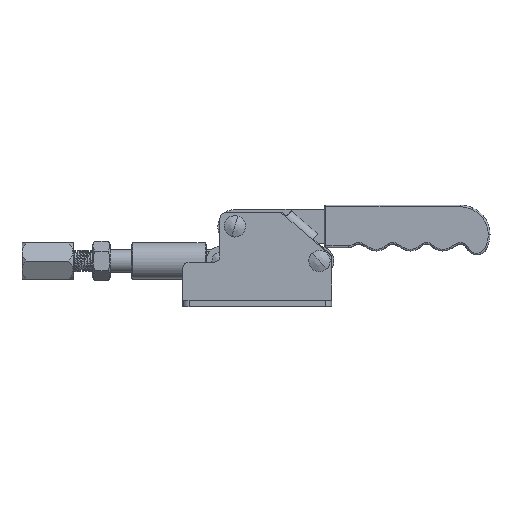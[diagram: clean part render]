
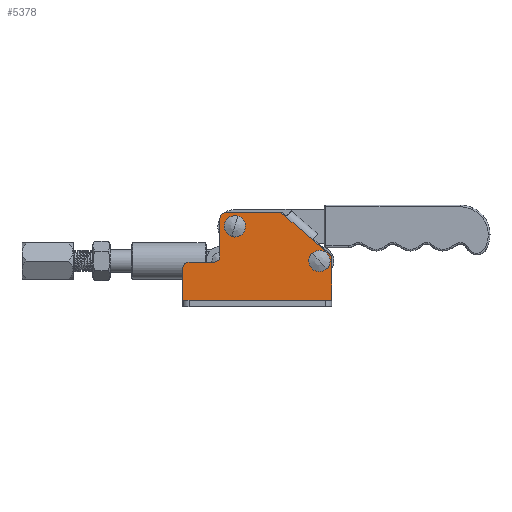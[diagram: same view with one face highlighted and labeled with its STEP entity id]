
A CAD part, top view. The second image highlights one B-rep face of the part: STEP entity #5378.
In plain terms, the highlighted planar face has unit normal (0, 0, 1).
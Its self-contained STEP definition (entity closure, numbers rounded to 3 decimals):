
#438 = VERTEX_POINT ( 'NONE', #16229 ) ;
#706 = LINE ( 'NONE', #6889, #12994 ) ;
#869 = EDGE_CURVE ( 'NONE', #438, #1875, #4593, .T. ) ;
#1013 = CARTESIAN_POINT ( 'NONE',  ( -1326.184, -511.963, 0. ) ) ;
#1091 = AXIS2_PLACEMENT_3D ( 'NONE', #14428, #15943, #9283 ) ;
#1398 = CARTESIAN_POINT ( 'NONE',  ( -1315.984, -498.063, 0. ) ) ;
#1481 = AXIS2_PLACEMENT_3D ( 'NONE', #10394, #12073, #18876 ) ;
#1538 = VECTOR ( 'NONE', #19538, 1000. ) ;
#1875 = VERTEX_POINT ( 'NONE', #15721 ) ;
#2452 = CIRCLE ( 'NONE', #16644, 3.2 ) ;
#2534 = DIRECTION ( 'NONE',  ( 1., 0., 0. ) ) ;
#2621 = DIRECTION ( 'NONE',  ( 0., 0., -1. ) ) ;
#3165 = ORIENTED_EDGE ( 'NONE', *, *, #10624, .T. ) ;
#3250 = VERTEX_POINT ( 'NONE', #17932 ) ;
#3260 = ORIENTED_EDGE ( 'NONE', *, *, #9118, .F. ) ;
#3935 = DIRECTION ( 'NONE',  ( 0., 0., -1. ) ) ;
#4163 = CARTESIAN_POINT ( 'NONE',  ( -1282.584, -514.341, 0. ) ) ;
#4225 = DIRECTION ( 'NONE',  ( 1., 0., 0. ) ) ;
#4294 = CARTESIAN_POINT ( 'NONE',  ( -1340.684, -517.963, 0. ) ) ;
#4425 = CARTESIAN_POINT ( 'NONE',  ( -1323.184, -494.463, 0. ) ) ;
#4512 = ORIENTED_EDGE ( 'NONE', *, *, #8467, .F. ) ;
#4593 = CIRCLE ( 'NONE', #19656, 3. ) ;
#4725 = ORIENTED_EDGE ( 'NONE', *, *, #15150, .T. ) ;
#4843 = CARTESIAN_POINT ( 'NONE',  ( -1340.684, -514.963, 0. ) ) ;
#4993 = EDGE_CURVE ( 'NONE', #5367, #8135, #9800, .T. ) ;
#5367 = VERTEX_POINT ( 'NONE', #17725 ) ;
#5378 = ADVANCED_FACE ( 'N', ( #14263, #16341, #10310 ), #14200, .T. ) ;
#5974 = EDGE_LOOP ( 'NONE', ( #4725, #3165 ) ) ;
#6166 = VERTEX_POINT ( 'NONE', #8924 ) ;
#6574 = DIRECTION ( 'NONE',  ( 1., 0., 0. ) ) ;
#6889 = CARTESIAN_POINT ( 'NONE',  ( -1273.684, -556.693, 0. ) ) ;
#7029 = CARTESIAN_POINT ( 'NONE',  ( -1326.184, -494.463, 0. ) ) ;
#7341 = CARTESIAN_POINT ( 'NONE',  ( -1319.184, -498.063, 0. ) ) ;
#7474 = ORIENTED_EDGE ( 'NONE', *, *, #9528, .F. ) ;
#7663 = ORIENTED_EDGE ( 'NONE', *, *, #19143, .F. ) ;
#7712 = ORIENTED_EDGE ( 'NONE', *, *, #14078, .T. ) ;
#7745 = CIRCLE ( 'NONE', #1481, 3.2 ) ;
#7964 = VECTOR ( 'NONE', #17767, 1000. ) ;
#8017 = VERTEX_POINT ( 'NONE', #11988 ) ;
#8052 = CIRCLE ( 'NONE', #9910, 3.2 ) ;
#8135 = VERTEX_POINT ( 'NONE', #8819 ) ;
#8168 = DIRECTION ( 'NONE',  ( 0., 0., -1. ) ) ;
#8358 = DIRECTION ( 'NONE',  ( -0.755, 0.656, 0. ) ) ;
#8463 = DIRECTION ( 'NONE',  ( 1., 0., 0. ) ) ;
#8467 = EDGE_CURVE ( 'NONE', #13132, #18253, #706, .T. ) ;
#8646 = DIRECTION ( 'NONE',  ( 0., -1., 0. ) ) ;
#8819 = CARTESIAN_POINT ( 'NONE',  ( -1297.545, -491.463, 0. ) ) ;
#8924 = CARTESIAN_POINT ( 'NONE',  ( -1343.684, -532.833, 0. ) ) ;
#9024 = CIRCLE ( 'NONE', #20962, 3. ) ;
#9118 = EDGE_CURVE ( 'NONE', #3250, #11066, #9024, .T. ) ;
#9253 = DIRECTION ( 'NONE',  ( 0., 0., -1. ) ) ;
#9283 = DIRECTION ( 'NONE',  ( 1., 0., 0. ) ) ;
#9528 = EDGE_CURVE ( 'NONE', #438, #17171, #15041, .T. ) ;
#9584 = EDGE_CURVE ( 'NONE', #17171, #5367, #16890, .T. ) ;
#9800 = LINE ( 'NONE', #19764, #18443 ) ;
#9910 = AXIS2_PLACEMENT_3D ( 'NONE', #18236, #8168, #13041 ) ;
#10044 = DIRECTION ( 'NONE',  ( 0., 0., -1. ) ) ;
#10173 = CARTESIAN_POINT ( 'NONE',  ( -1329.184, -511.963, 0. ) ) ;
#10286 = CARTESIAN_POINT ( 'NONE',  ( -1273.684, -532.833, 0. ) ) ;
#10310 = FACE_BOUND ( 'NONE', #11584, .T. ) ;
#10346 = VERTEX_POINT ( 'NONE', #1398 ) ;
#10394 = CARTESIAN_POINT ( 'NONE',  ( -1279.384, -514.341, 0. ) ) ;
#10611 = CARTESIAN_POINT ( 'NONE',  ( -1273.684, -512.205, 0. ) ) ;
#10624 = EDGE_CURVE ( 'NONE', #8017, #10346, #2452, .T. ) ;
#11066 = VERTEX_POINT ( 'NONE', #20886 ) ;
#11584 = EDGE_LOOP ( 'NONE', ( #19596, #18753 ) ) ;
#11637 = DIRECTION ( 'NONE',  ( 1., 0., 0. ) ) ;
#11965 = LINE ( 'NONE', #16018, #20850 ) ;
#11988 = CARTESIAN_POINT ( 'NONE',  ( -1322.384, -498.063, 0. ) ) ;
#12073 = DIRECTION ( 'NONE',  ( 0., 0., -1. ) ) ;
#12191 = CARTESIAN_POINT ( 'NONE',  ( -1276.184, -514.341, 0. ) ) ;
#12195 = ORIENTED_EDGE ( 'NONE', *, *, #869, .T. ) ;
#12830 = DIRECTION ( 'NONE',  ( 1., 0., 0. ) ) ;
#12994 = VECTOR ( 'NONE', #8646, 1000. ) ;
#13041 = DIRECTION ( 'NONE',  ( 1., 0., 0. ) ) ;
#13045 = ORIENTED_EDGE ( 'NONE', *, *, #17984, .F. ) ;
#13073 = VECTOR ( 'NONE', #8358, 1000. ) ;
#13132 = VERTEX_POINT ( 'NONE', #10611 ) ;
#14078 = EDGE_CURVE ( 'NONE', #13132, #8135, #17543, .T. ) ;
#14200 = PLANE ( 'NONE',  #1091 ) ;
#14263 = FACE_OUTER_BOUND ( 'NONE', #18119, .T. ) ;
#14306 = AXIS2_PLACEMENT_3D ( 'NONE', #20066, #10044, #6574 ) ;
#14428 = CARTESIAN_POINT ( 'NONE',  ( -1340.684, -556.693, 0. ) ) ;
#14912 = ORIENTED_EDGE ( 'NONE', *, *, #18850, .T. ) ;
#15041 = LINE ( 'NONE', #1013, #7964 ) ;
#15150 = EDGE_CURVE ( 'NONE', #10346, #8017, #8052, .T. ) ;
#15545 = VERTEX_POINT ( 'NONE', #4163 ) ;
#15592 = ORIENTED_EDGE ( 'NONE', *, *, #4993, .F. ) ;
#15721 = CARTESIAN_POINT ( 'NONE',  ( -1329.184, -514.963, 0. ) ) ;
#15943 = DIRECTION ( 'NONE',  ( 0., 0., 1. ) ) ;
#15989 = VERTEX_POINT ( 'NONE', #12191 ) ;
#16018 = CARTESIAN_POINT ( 'NONE',  ( -1340.684, -532.833, 0. ) ) ;
#16229 = CARTESIAN_POINT ( 'NONE',  ( -1326.184, -511.963, 0. ) ) ;
#16293 = EDGE_CURVE ( 'NONE', #15545, #15989, #17926, .T. ) ;
#16341 = FACE_BOUND ( 'NONE', #5974, .T. ) ;
#16644 = AXIS2_PLACEMENT_3D ( 'NONE', #7341, #3935, #4225 ) ;
#16659 = VECTOR ( 'NONE', #11637, 1000. ) ;
#16890 = CIRCLE ( 'NONE', #20128, 3. ) ;
#16978 = LINE ( 'NONE', #17855, #1538 ) ;
#17171 = VERTEX_POINT ( 'NONE', #7029 ) ;
#17543 = LINE ( 'NONE', #18408, #13073 ) ;
#17706 = DIRECTION ( 'NONE',  ( 1., 0., 0. ) ) ;
#17725 = CARTESIAN_POINT ( 'NONE',  ( -1323.184, -491.463, 0. ) ) ;
#17767 = DIRECTION ( 'NONE',  ( 0., 1., 0. ) ) ;
#17855 = CARTESIAN_POINT ( 'NONE',  ( -1343.684, -556.693, 0. ) ) ;
#17926 = CIRCLE ( 'NONE', #14306, 3.2 ) ;
#17932 = CARTESIAN_POINT ( 'NONE',  ( -1343.684, -517.963, 0. ) ) ;
#17984 = EDGE_CURVE ( 'NONE', #6166, #3250, #16978, .T. ) ;
#18119 = EDGE_LOOP ( 'NONE', ( #3260, #13045, #14912, #4512, #7712, #15592, #20769, #7474, #12195, #7663 ) ) ;
#18236 = CARTESIAN_POINT ( 'NONE',  ( -1319.184, -498.063, 0. ) ) ;
#18253 = VERTEX_POINT ( 'NONE', #10286 ) ;
#18408 = CARTESIAN_POINT ( 'NONE',  ( -1273.684, -512.205, 0. ) ) ;
#18443 = VECTOR ( 'NONE', #12830, 1000. ) ;
#18753 = ORIENTED_EDGE ( 'NONE', *, *, #16293, .T. ) ;
#18850 = EDGE_CURVE ( 'NONE', #6166, #18253, #11965, .T. ) ;
#18876 = DIRECTION ( 'NONE',  ( 1., 0., 0. ) ) ;
#19105 = DIRECTION ( 'NONE',  ( 1., 0., 0. ) ) ;
#19143 = EDGE_CURVE ( 'NONE', #11066, #1875, #20057, .T. ) ;
#19407 = EDGE_CURVE ( 'NONE', #15989, #15545, #7745, .T. ) ;
#19538 = DIRECTION ( 'NONE',  ( 0., 1., 0. ) ) ;
#19596 = ORIENTED_EDGE ( 'NONE', *, *, #19407, .T. ) ;
#19656 = AXIS2_PLACEMENT_3D ( 'NONE', #10173, #20250, #8463 ) ;
#19764 = CARTESIAN_POINT ( 'NONE',  ( -1323.184, -491.463, 0. ) ) ;
#20057 = LINE ( 'NONE', #4843, #16659 ) ;
#20066 = CARTESIAN_POINT ( 'NONE',  ( -1279.384, -514.341, 0. ) ) ;
#20128 = AXIS2_PLACEMENT_3D ( 'NONE', #4425, #9253, #2534 ) ;
#20250 = DIRECTION ( 'NONE',  ( 0., 0., -1. ) ) ;
#20769 = ORIENTED_EDGE ( 'NONE', *, *, #9584, .F. ) ;
#20850 = VECTOR ( 'NONE', #19105, 1000. ) ;
#20886 = CARTESIAN_POINT ( 'NONE',  ( -1340.684, -514.963, 0. ) ) ;
#20962 = AXIS2_PLACEMENT_3D ( 'NONE', #4294, #2621, #17706 ) ;
